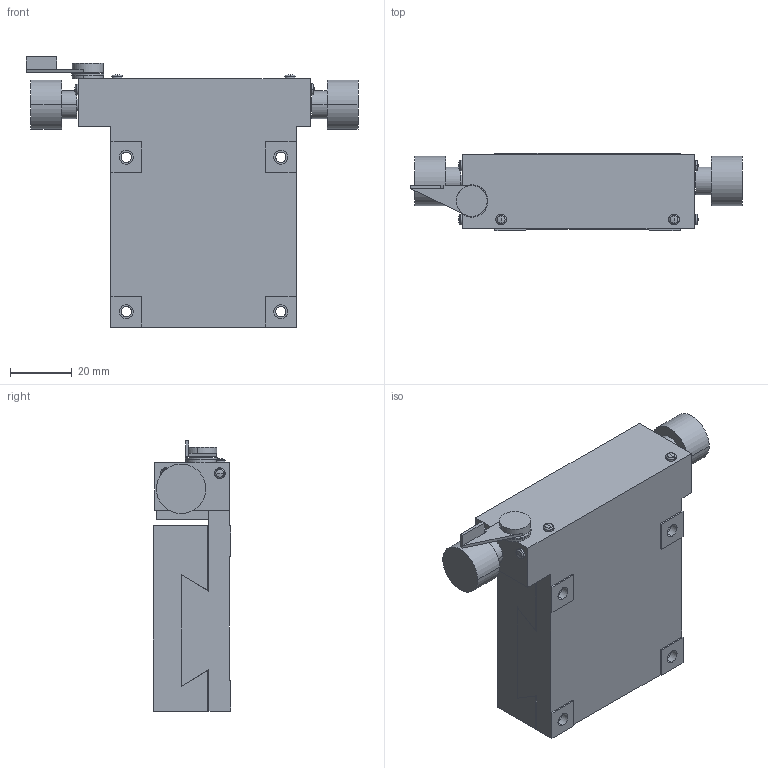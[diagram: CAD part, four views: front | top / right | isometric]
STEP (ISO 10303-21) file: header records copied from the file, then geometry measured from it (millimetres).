
FILE_DESCRIPTION (( 'STEP AP203' ), '1' );
FILE_NAME ('TS-R611.STEP', '2008-02-27T04:46:33', ( '' ), ( '' ), 'SwSTEP 2.0', 'SolidWorks 2007', '' );
FILE_SCHEMA (( 'CONFIG_CONTROL_DESIGN' ));
Length unit declared in the file: millimetre
Products named in the file (3): TS-R611-2_蹬怮椔; TS-R611; TS-R611-1_蹬怮椔
Assembly tree (2 placements, depth 2):
  TS-R611
    TS-R611-1_蹬怮椔
    TS-R611-2_蹬怮椔
Bounding box: 107.5 x 25 x 87.5 mm (x, y, z)
Volume: 122531.5 mm3; surface area: 35467.2 mm2
Topology: 2 solids, 3 shells, 238 faces, 570 edges, 364 vertices
Faces by surface type: cylinder 93, plane 93, cone 28, torus 12, sphere 12
Entity records: 7274 total; most frequent: DIRECTION 1305, CARTESIAN_POINT 1191, ORIENTED_EDGE 1120, EDGE_CURVE 560, AXIS2_PLACEMENT_3D 510, VERTEX_POINT 364, EDGE_LOOP 302, VECTOR 285
